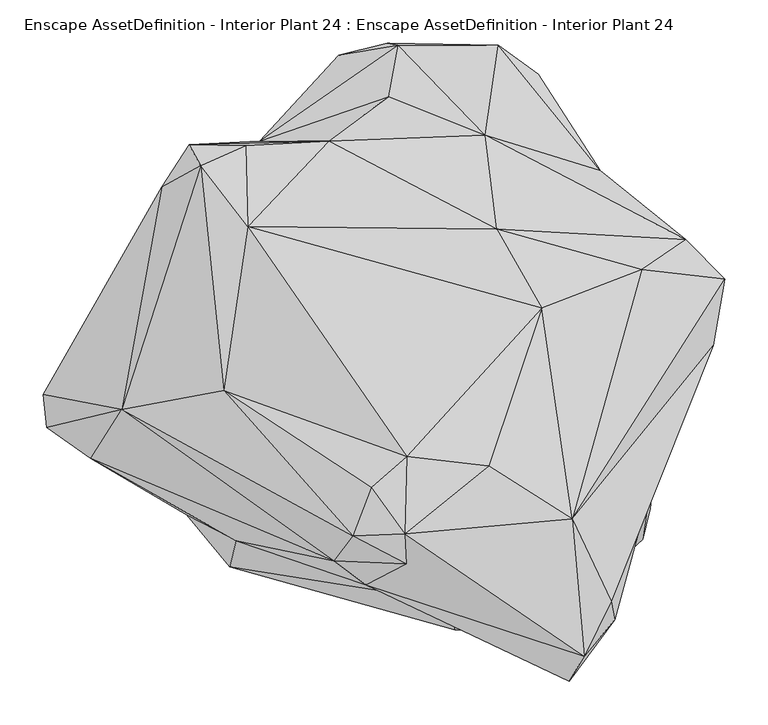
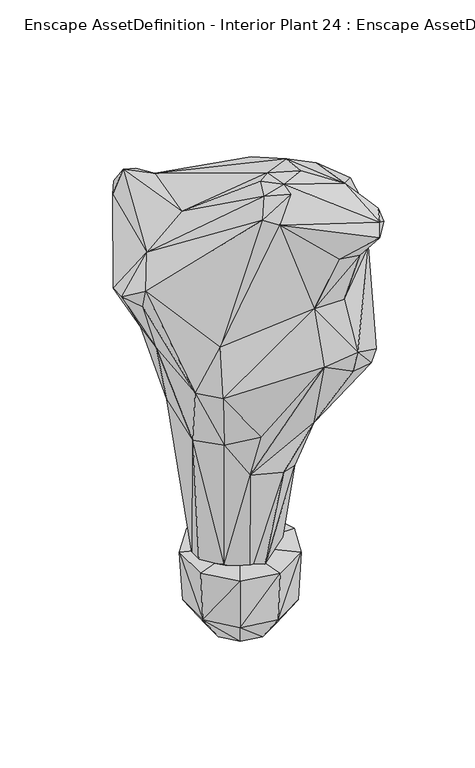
"""IFC4 building model written with IfcOpenShell, lengths in millimetres: geographic element geometry, Enscape AssetDefinition - Interior Plant 24 : Enscape AssetDefinition - Interior Plant 24."""

from ifc_helpers import new_model, si_unit, origin, place, context, project, spatial, faceted_brep, source, transform, mapped, element, save


def enscape_assetdefinition_interior_plant_24_enscape_8646f427(model_context):
    return source(origin(), model_context, "Body", "Brep", [
        faceted_brep([(117.1547398, 98.3042568, 87.3715654), (90.1894867, 0.0, 0.0), (69.0890774, 57.9723828, 0.0), (152.9347301, 0.0, 87.3715654), (69.0890774, -57.9723828, 0.0), (0.0, 0.0, 0.0), (15.6615637, 88.8185278, 0.0), (26.5572593, 150.6108046, 87.3715654), (-76.4668733, 132.4453056, 87.3715654), (-45.0947434, 78.1058222, 0.0), (28.0142203, 158.8745713, 240.2093112), (-80.6627497, 139.7120953, 240.2093112), (-84.7496316, 30.8461413, 0.0), (-143.7119991, 52.306544, 87.3715654), (-143.7119991, -52.306544, 87.3715654), (-84.7496316, -30.8461413, 0.0), (-151.5967697, 55.1764593, 240.2093112), (0.0, 0.0, 240.2093112), (123.5825494, 103.6981121, 240.2093112), (161.3254994, 0.0, 240.2093112), (117.1547398, -98.3042568, 87.3715654), (123.5825494, -103.6981121, 240.2093112), (26.5572593, -150.6108046, 87.3715654), (28.0142203, -158.8745713, 240.2093112), (-76.4668733, -132.4453056, 87.3715654), (15.6615637, -88.8185278, 0.0), (-45.0947434, -78.1058222, 0.0), (-80.6627497, -139.7120953, 240.2093112), (-151.5967697, -55.1764593, 240.2093112)], [[[0, 1, 2]], [[1, 0, 3]], [[3, 4, 1]], [[5, 2, 1]], [[5, 1, 4]], [[6, 0, 2]], [[5, 6, 2]], [[0, 6, 7]], [[8, 6, 9]], [[6, 8, 7]], [[5, 9, 6]], [[10, 0, 7]], [[7, 11, 10]], [[11, 7, 8]], [[12, 8, 9]], [[8, 12, 13]], [[13, 11, 8]], [[5, 12, 9]], [[14, 12, 15]], [[12, 14, 13]], [[5, 15, 12]], [[11, 13, 16]], [[14, 16, 13]], [[17, 10, 11]], [[17, 11, 16]], [[0, 10, 18]], [[17, 18, 10]], [[3, 18, 19]], [[18, 3, 0]], [[17, 19, 18]], [[20, 19, 21]], [[19, 20, 3]], [[17, 21, 19]], [[4, 3, 20]], [[22, 4, 20]], [[21, 22, 20]], [[22, 21, 23]], [[17, 23, 21]], [[24, 25, 22]], [[4, 22, 25]], [[23, 24, 22]], [[5, 4, 25]], [[25, 24, 26]], [[5, 25, 26]], [[14, 26, 24]], [[27, 14, 24]], [[24, 23, 27]], [[17, 27, 23]], [[14, 27, 28]], [[17, 28, 27]], [[26, 14, 15]], [[16, 14, 28]], [[5, 26, 15]], [[17, 16, 28]]]),
        faceted_brep([(156.1846435, 23.3473498, 419.1953242), (114.931792, 158.0195874, 715.3490782), (165.7563746, 0.6329824, 540.7479405), (246.5971261, 48.9726327, 816.0432577), (97.5172818, 235.3834361, 809.7254634), (-44.1047736, 208.7811828, 761.5177631), (109.832935, 106.2490419, 533.7491035), (112.7538532, -23.989331, 242.994234), (131.052345, 52.8525263, 244.4281876), (54.2834885, 115.812771, 243.3402091), (5.3888499, 147.7848887, 568.5361624), (68.3060959, 84.0466544, 202.9863447), (29.5151789, -56.3824289, 187.0067865), (105.4860577, -101.3211682, 520.56849), (10.7637001, -102.1531522, 220.9828347), (-75.9198815, 32.1681052, 188.4397417), (-19.5114557, -82.4307054, 204.7702968), (-67.6201135, 100.8721814, 235.6514335), (-123.1645718, 3.3949055, 229.4255942), (-121.9726056, 40.0348864, 226.8476784), (-52.0335473, -140.0500983, 567.4331784), (-81.9167197, -58.2883768, 245.164156), (50.9185828, -136.7121935, 538.5850072), (136.0362023, -146.3099271, 673.3142138), (80.5847496, -296.4867353, 959.5482349), (-127.0434707, -134.6632391, 686.4978671), (-48.0186604, -192.5176382, 719.853878), (-177.0280749, -58.4323704, 673.4312177), (-230.1075906, -163.5814458, 905.1887989), (-274.8873532, -36.2809896, 989.0494347), (-191.0566688, 52.0795472, 741.2943244), (-180.5679798, -223.4477699, 907.1677327), (70.4390332, -263.7566626, 1128.9016008), (-172.70118, -193.347618, 1048.7577915), (-341.6834772, -98.2542634, 1229.1517258), (-339.0415609, -78.0788213, 1167.2934294), (-22.6343684, -244.4461733, 1415.8885479), (-59.7303323, -216.8629467, 1428.6922216), (-305.2664995, -41.4248444, 1305.5135012), (-392.5050497, -61.9542748, 1207.6323032), (-396.6419399, -23.9113346, 1212.6741409), (-221.0998386, 136.2311989, 930.2470684), (-259.2417896, 216.7699635, 1317.6132441), (-268.6745226, 175.0671268, 1178.1852245), (-92.8044096, 153.9977044, 695.6046224), (-154.6536982, 252.9419661, 928.0311465), (-227.2866666, 266.2525773, 1318.8232183), (-145.6139386, 269.8774934, 1104.9832106), (-213.708058, 241.7212576, 1365.7729626), (-65.7271668, 270.3124583, 1265.0027275), (-161.716491, 264.7226155, 1337.0177746), (-187.3887926, -19.1864651, 1381.7224503), (-159.6395522, 171.198234, 1377.3726225), (24.8843078, -95.7493335, 1476.646781), (181.5469563, 76.4838681, 1361.6560698), (129.2033941, 168.1723148, 1329.8968077), (-37.7749465, -187.8387779, 1479.7626734), (-16.4485425, -131.7233294, 1485.7096672), (24.2173243, -220.3538567, 1483.7126732), (22.7963645, -185.8048141, 1494.4703579), (120.2076524, -106.6030264, 1455.3924799), (217.0229554, -167.9233313, 1419.1404581), (230.5435836, -327.2868693, 1387.0054483), (123.0935678, -300.8986115, 1291.4619446), (213.3730501, -356.7390442, 1361.7520332), (261.7757022, -263.8646364, 1382.1694851), (265.8545971, -285.082072, 1351.994276), (193.8416064, -285.2460444, 1269.6336508), (162.9004627, -258.6447895, 1124.4965792), (179.4399917, -299.3646562, 973.9058614), (306.4414561, -136.1231953, 1167.7983999), (380.3243935, 33.2410745, 1194.2677498), (321.3000596, -33.8630565, 999.7311234), (298.2436717, -192.0996606, 879.1825175), (393.7300146, 109.9319309, 1205.6974173), (297.5766957, 120.9046319, 1281.6141844), (348.4823108, 155.962646, 1224.8868942), (373.9855886, 120.6156388, 1156.9757462), (115.9467697, 276.8453062, 1184.5649481), (249.0640581, 236.0104173, 1086.6076946), (177.4600595, 347.9112983, 993.6022758), (131.011337, 381.4203739, 970.5969691), (111.1229062, 361.7318869, 913.923502), (287.0509923, -53.681504, 835.0047469), (2.1359404, 383.8242888, 898.8209367), (15.1275778, 381.6023767, 980.0366759), (-53.8765006, 369.7407246, 907.7427387), (4.2008827, 321.6580153, 1113.7549877), (-125.3555119, 109.3879566, 477.1447182), (307.2644472, -156.1226398, 851.0682583), (190.3406829, -92.8644165, 683.6919785), (176.5890867, -282.0531428, 905.4127932), (277.4802744, -201.3273984, 848.2023478)], [[[0, 1, 2]], [[1, 3, 2]], [[1, 4, 3]], [[5, 4, 1]], [[0, 6, 1]], [[6, 5, 1]], [[0, 2, 7]], [[8, 0, 7]], [[8, 6, 0]], [[9, 6, 8]], [[10, 5, 6]], [[9, 10, 6]], [[11, 8, 12]], [[12, 8, 7]], [[11, 9, 8]], [[7, 2, 13]], [[14, 7, 13]], [[12, 7, 14]], [[11, 12, 15]], [[15, 12, 16]], [[16, 12, 14]], [[15, 17, 11]], [[11, 17, 9]], [[16, 18, 15]], [[15, 19, 17]], [[19, 15, 18]], [[16, 20, 21]], [[16, 22, 20]], [[18, 16, 21]], [[14, 22, 16]], [[13, 22, 14]], [[22, 23, 20]], [[23, 22, 13]], [[23, 24, 20]], [[20, 25, 21]], [[20, 24, 26]], [[20, 26, 25]], [[21, 25, 27]], [[27, 18, 21]], [[18, 27, 19]], [[27, 28, 29]], [[27, 25, 28]], [[27, 29, 30]], [[19, 27, 30]], [[28, 25, 31]], [[26, 31, 25]], [[26, 24, 31]], [[24, 32, 31]], [[31, 32, 33]], [[33, 28, 31]], [[28, 34, 35]], [[34, 28, 33]], [[28, 35, 29]], [[33, 32, 36]], [[33, 37, 34]], [[37, 33, 36]], [[37, 38, 34]], [[39, 34, 38]], [[35, 34, 39]], [[39, 29, 35]], [[39, 40, 41]], [[29, 39, 41]], [[40, 39, 38]], [[42, 40, 38]], [[42, 43, 40]], [[41, 40, 43]], [[44, 41, 45]], [[41, 43, 45]], [[30, 41, 44]], [[30, 29, 41]], [[46, 47, 43]], [[45, 43, 47]], [[43, 42, 46]], [[42, 38, 48]], [[46, 42, 48]], [[47, 46, 49]], [[50, 49, 46]], [[46, 48, 50]], [[38, 51, 48]], [[50, 48, 52]], [[51, 52, 48]], [[50, 52, 49]], [[53, 52, 51]], [[52, 53, 54]], [[52, 55, 49]], [[55, 52, 54]], [[38, 56, 51]], [[51, 56, 57]], [[51, 57, 53]], [[37, 56, 38]], [[37, 58, 56]], [[57, 56, 59]], [[59, 56, 58]], [[57, 59, 53]], [[54, 53, 60]], [[53, 59, 60]], [[61, 60, 59]], [[61, 59, 62]], [[62, 59, 36]], [[36, 59, 58]], [[36, 58, 37]], [[32, 63, 36]], [[64, 62, 36]], [[64, 36, 63]], [[61, 62, 65]], [[66, 62, 64]], [[66, 65, 62]], [[67, 66, 64]], [[63, 67, 64]], [[32, 67, 63]], [[68, 67, 32]], [[24, 69, 32]], [[32, 69, 68]], [[70, 67, 68]], [[70, 66, 67]], [[70, 65, 66]], [[70, 71, 65]], [[71, 61, 65]], [[72, 71, 70]], [[70, 69, 73]], [[73, 72, 70]], [[69, 70, 68]], [[72, 74, 71]], [[74, 61, 71]], [[75, 54, 61]], [[54, 60, 61]], [[75, 61, 74]], [[75, 74, 76]], [[77, 76, 74]], [[77, 74, 72]], [[75, 55, 54]], [[55, 75, 76]], [[78, 55, 76]], [[79, 78, 76]], [[79, 76, 77]], [[3, 77, 72]], [[79, 77, 3]], [[80, 79, 3]], [[80, 81, 79]], [[81, 78, 79]], [[82, 3, 4]], [[80, 3, 82]], [[2, 3, 83]], [[83, 3, 72]], [[81, 80, 82]], [[84, 85, 81]], [[85, 78, 81]], [[84, 81, 82]], [[84, 82, 4]], [[5, 84, 4]], [[84, 5, 86]], [[86, 85, 84]], [[85, 87, 78]], [[85, 47, 87]], [[86, 47, 85]], [[44, 86, 5]], [[44, 45, 86]], [[47, 86, 45]], [[10, 44, 5]], [[88, 30, 44]], [[17, 44, 9]], [[9, 44, 10]], [[88, 44, 17]], [[19, 30, 88]], [[88, 17, 19]], [[47, 49, 87]], [[78, 49, 55]], [[87, 49, 78]], [[83, 89, 90]], [[83, 72, 89]], [[2, 83, 90]], [[13, 90, 23]], [[89, 23, 90]], [[2, 90, 13]], [[23, 91, 24]], [[92, 23, 89]], [[92, 91, 23]], [[91, 69, 24]], [[91, 92, 69]], [[92, 73, 69]], [[92, 89, 73]], [[89, 72, 73]]]),
    ])


if __name__ == "__main__":
    model = new_model("IFC4")
    model_context = context("Model", 3, world=origin())
    ifc_project = project(units=[si_unit("LENGTHUNIT", "METRE", prefix="MILLI")], contexts=[model_context])
    site = spatial("IfcSite", under=ifc_project)
    building = spatial("IfcBuilding", under=site)
    placement = place(None, origin())
    enscape_assetdefinition_interior_plant_24_enscape_shape = enscape_assetdefinition_interior_plant_24_enscape_8646f427(model_context)
    element("IfcGeographicElement", 1, ObjectType="Enscape AssetDefinition - Interior Plant 24 : Enscape AssetDefinition - Interior Plant 24", at=placement, inside=building, context=model_context, shape_type="MappedRepresentation", body=[
        mapped(enscape_assetdefinition_interior_plant_24_enscape_shape, transform((0.0, 0.0, 0.0), x_axis=(1.0, 0.0, 0.0), y_axis=(0.0, 1.0, 0.0), z_axis=(0.0, 0.0, 1.0))),
    ])
    save(model, "model.ifc")
